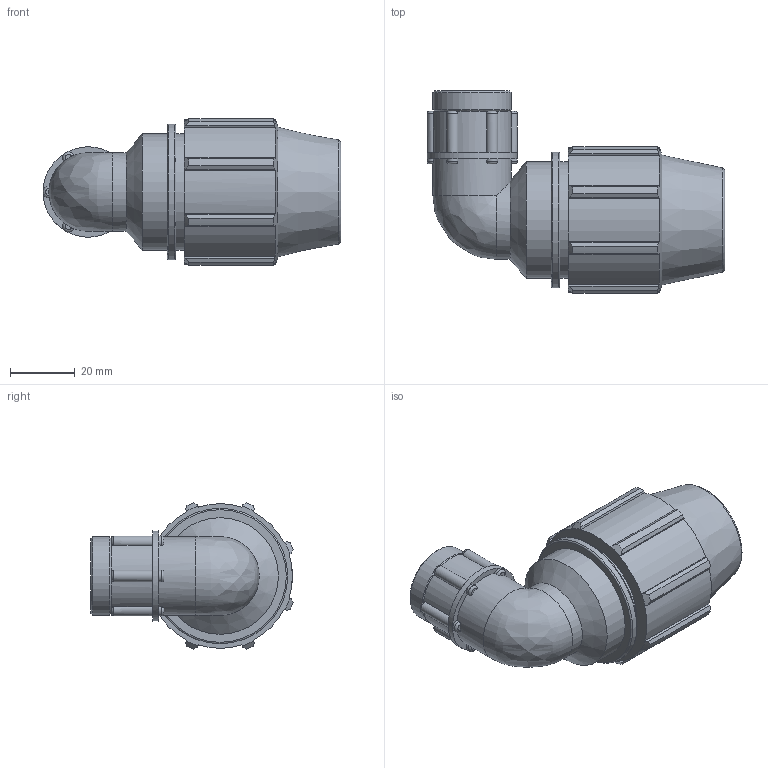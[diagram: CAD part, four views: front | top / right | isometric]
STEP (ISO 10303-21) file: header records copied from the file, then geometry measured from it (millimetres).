
FILE_DESCRIPTION(/* description */ ('PLASSON 90° ELBOW FEMALE ADAPTOR 1/2'''' - 1/2''''F'),/* implementation_level */ '2;1');
FILE_NAME(/* name */ 'C:\Dropbox\KIMPROJECTS-Inventor 2019\99-16-3568-Processing Inch\ASTM Compression 2021\0715M0\0715M0005005.ipt.stp',/* time_stamp */ '2021-08-26T12:33:37+03:00',/* author */ ('KIM'),/* organization */ (''),/* preprocessor_version */ 'ST-DEVELOPER v17.2',/* originating_system */ 'Autodesk Inventor 2019',/* authorisation */ '');
FILE_SCHEMA (('AUTOMOTIVE_DESIGN { 1 0 10303 214 3 1 1 }'));
Length unit declared in the file: inch
Products named in the file (1): 0715M0005005
Bounding box: 91.9 x 62.46 x 45.17 mm (x, y, z)
Volume: 74308.1 mm3; surface area: 22548.9 mm2
Topology: 1 solids, 1 shells, 138 faces, 391 edges, 259 vertices
Faces by surface type: plane 60, cylinder 46, torus 15, cone 15, bspline 2
Full cylindrical faces by diameter (mm): 13.042 x1, 16.768 x2, 18.631 x1, 21.2 x1, 24.22 x2, 27.853 x1, 36.005 x2, 41.765 x1
Entity records: 4984 total; most frequent: CARTESIAN_POINT 1169, DIRECTION 794, ORIENTED_EDGE 774, EDGE_CURVE 387, AXIS2_PLACEMENT_3D 328, VERTEX_POINT 259, CIRCLE 187, EDGE_LOOP 148
